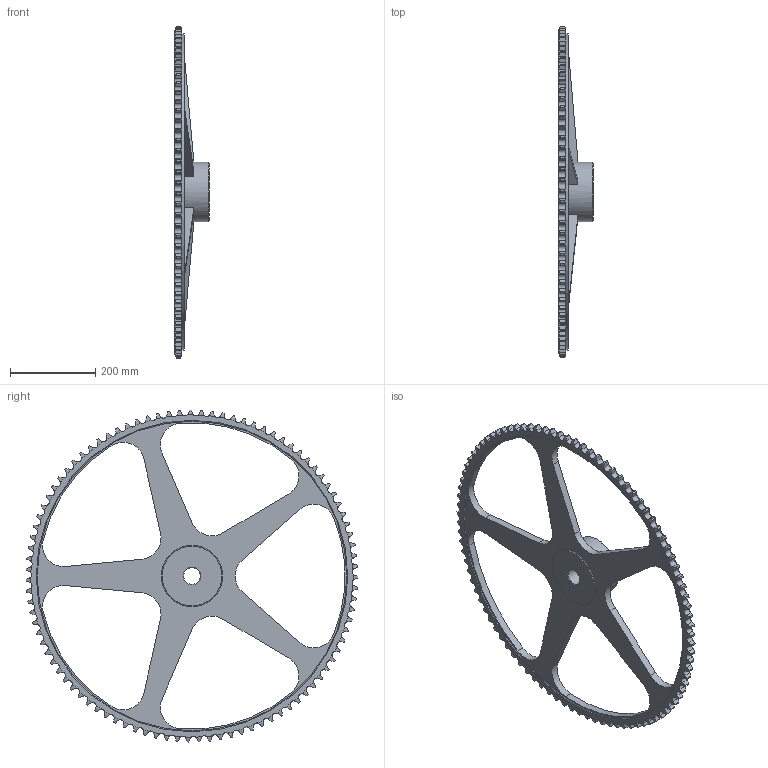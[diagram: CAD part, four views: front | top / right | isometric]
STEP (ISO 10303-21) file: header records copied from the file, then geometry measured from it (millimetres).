
FILE_DESCRIPTION(/* description */ (''),/* implementation_level */ '2;1');
FILE_NAME(/* name */ 'C:\Users\stagistacad\Desktop\12125095.stp',/* time_stamp */ '2018-06-20T16:38:03+02:00',/* author */ ('stagistacad'),/* organization */ (''),/* preprocessor_version */ 'ST-DEVELOPER v15.6',/* originating_system */ 'Autodesk Inventor 2015',/* authorisation */ '');
FILE_SCHEMA (('AUTOMOTIVE_DESIGN { 1 0 10303 214 3 1 1 }'));
Length unit declared in the file: millimetre
Products named in the file (1): 12125095
Bounding box: 80 x 779.26 x 779.27 mm (x, y, z)
Volume: 3998227.5 mm3; surface area: 564544.7 mm2
Topology: 1 solids, 1 shells, 652 faces, 1933 edges, 1287 vertices
Faces by surface type: cylinder 406, torus 208, plane 31, cone 7
Full cylindrical faces by diameter (mm): 39 x1, 140 x2, 730.943 x2, 742 x1
Entity records: 24101 total; most frequent: CARTESIAN_POINT 7597, ORIENTED_EDGE 3840, DIRECTION 3086, EDGE_CURVE 1920, AXIS2_PLACEMENT_3D 1313, VERTEX_POINT 1285, B_SPLINE_CURVE_WITH_KNOTS 790, EDGE_LOOP 679
